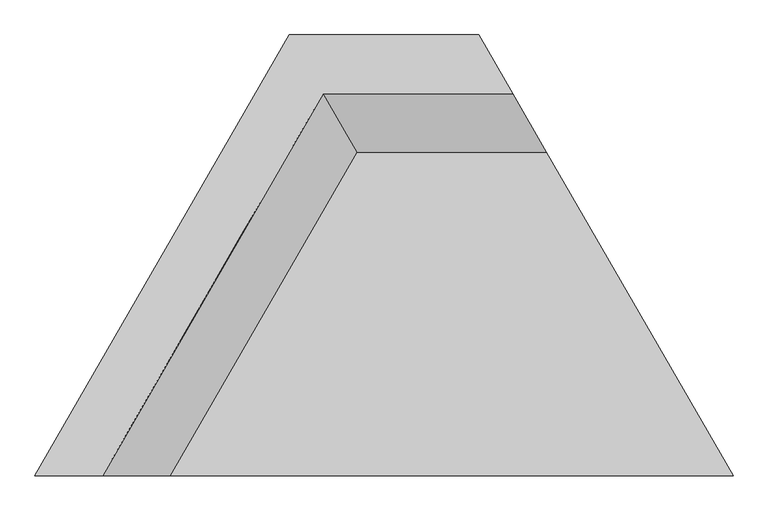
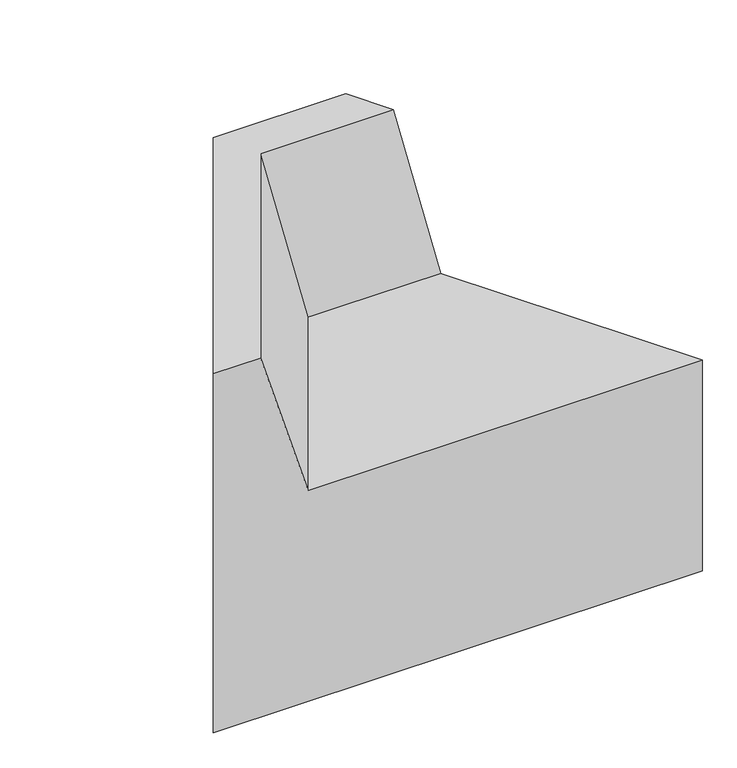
"""IFC4 building model written with IfcOpenShell, lengths in millimetres: furniture geometry, Hive Corner Seat Right-Handed : Hive Corner Seat Right-Handed."""

from ifc_helpers import new_model, si_unit, frame, origin, place, context, project, spatial, source, transform, mapped, element, save
from ifc_brep_helpers import plane_surface, spline_surface, advanced_brep


def furniture_90a128a2(model_context):
    return source(origin(), model_context, "Body", "AdvancedBrep", [
        advanced_brep(
        [(139.7223422, 650.000005, 800.0000061), (-139.7223377, 650.000005, 800.0000061), (-515.0000126, 0.0, 800.0000061), (-415.0000118, 0.0, 800.0000061), (-89.7223373, 563.3974422, 800.0000061), (189.7223426, 563.3974422, 800.0000061), (139.7223422, 650.000005, 0.0), (189.7223426, 563.3974422, 0.0), (239.722343, 476.7949159, 0.0), (515.0000126, 0.0, 0.0), (-515.0000126, 0.0, 0.0), (-139.7223377, 650.000005, 0.0), (515.0000126, 0.0, 470.0000181), (-315.000011, 0.0, 470.0000181), (239.722343, 476.7949159, 470.0000181), (-39.7223006, 476.7949159, 470.0000181)],
        [
            (0, 1),
            (1, 2),
            (2, 3),
            (3, 4),
            (4, 5),
            (5, 0),
            (6, 7),
            (7, 8),
            (8, 9),
            (9, 10),
            (10, 11),
            (11, 6),
            (0, 6),
            (11, 1),
            (10, 2),
            (9, 12),
            (12, 13),
            (13, 3),
            (8, 14),
            (14, 12),
            (7, 5),
            (5, 14),
            (14, 15),
            (15, 13),
            (4, 15),
        ],
        [
            plane_surface(frame((-139.7223377, 650.000005, 800.0000061), z_axis=(0.0, 0.0, 1.0), x_axis=(-1.0, 0.0, 0.0))),
            plane_surface(frame((-139.7223377, 650.000005, 0.0), z_axis=(0.0, 0.0, -1.0), x_axis=(1.0, 0.0, 0.0))),
            plane_surface(frame((139.7223422, 650.000005, 800.0000061), z_axis=(0.0, 1.0, 0.0), x_axis=(0.0, 0.0, -1.0))),
            plane_surface(frame((-139.7223377, 650.000005, 800.0000061), z_axis=(-0.86602540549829, 0.4999999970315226, 0.0), x_axis=(0.0, 0.0, -1.0))),
            plane_surface(frame((-515.0000126, 0.0, 800.0000061), z_axis=(0.0, -1.0, 0.0), x_axis=(0.0, 0.0, -1.0))),
            plane_surface(frame((515.0000126, 0.0, 800.0000061), z_axis=(0.8660254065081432, 0.4999999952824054, 0.0), x_axis=(0.0, 0.0, -1.0))),
            plane_surface(frame((239.722343, 476.7949159, 800.0000061), z_axis=(0.866025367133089, 0.5000000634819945, 0.0), x_axis=(0.0, 0.0, -1.0))),
            plane_surface(frame((189.7223426, 563.3974422, 800.0000061), z_axis=(0.8660254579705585, 0.4999999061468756, 0.0), x_axis=(0.0, 0.0, -1.0))),
            plane_surface(frame((100.000011, 238.3974579, 470.0000181), z_axis=(0.0, 0.0, 1.0000000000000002), x_axis=(-0.5000000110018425, -0.8660253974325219, 0.0))),
            plane_surface(frame((100.0000212, 476.7949159, 470.0000181), z_axis=(0.0, -0.9672471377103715, 0.2538365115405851), x_axis=(-1.0, 0.0, 0.0))),
            spline_surface(1, 1, [[(-39.7223006, 476.7949159, 470.0000181), (-315.000011, 0.0, 470.0000181)], [(-89.7223373, 563.3974422, 800.0000061), (-415.0000118, 0.0, 800.0000061)]], [2, 2], [2, 2], [0.0, 1.0], [0.0, 1.0]),
        ],
        [
            (0, [[1, 2, 3, 4, 5, 6]]),
            (1, [[7, 8, 9, 10, 11, 12]]),
            (2, [[-1, 13, -12, 14]]),
            (3, [[-2, -14, -11, 15]]),
            (4, [[-10, 16, 17, 18, -3, -15]]),
            (5, [[-9, 19, 20, -16]]),
            (6, [[-8, 21, 22, -19]]),
            (7, [[-6, -21, -7, -13]]),
            (8, [[23, 24, -17, -20]]),
            (9, [[-23, -22, -5, 25]]),
            (10, [[-24, -25, -4, -18]]),
        ],
    ),
    ])


if __name__ == "__main__":
    model = new_model("IFC4")
    model_context = context("Model", 3, world=origin())
    ifc_project = project(units=[si_unit("LENGTHUNIT", "METRE", prefix="MILLI")], contexts=[model_context])
    site = spatial("IfcSite", under=ifc_project)
    building = spatial("IfcBuilding", under=site)
    placement = place(None, origin())
    furniture_shape = furniture_90a128a2(model_context)
    element("IfcFurniture", 1, ObjectType="Hive Corner Seat Right-Handed : Hive Corner Seat Right-Handed", at=placement, inside=building, context=model_context, shape_type="MappedRepresentation", body=[
        mapped(furniture_shape, transform((0.0, 0.0, 0.0), x_axis=(1.0, 0.0, 0.0), y_axis=(0.0, 1.0, 0.0), z_axis=(0.0, 0.0, 1.0))),
    ])
    save(model, "model.ifc")
